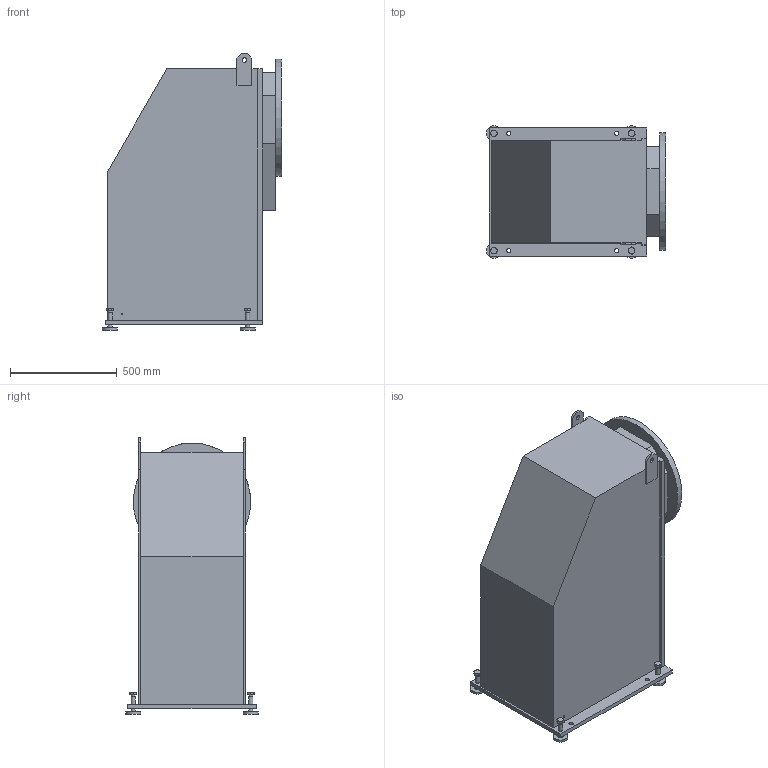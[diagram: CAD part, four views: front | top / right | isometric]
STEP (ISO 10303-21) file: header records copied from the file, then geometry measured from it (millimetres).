
FILE_DESCRIPTION((''),'2;1');
FILE_NAME('S:\Manipulatorer\Produkter\Layout symboler\HSB\114771-100 HSB-1000 SN (STEP).stp','2008-02-04T15:47:37',('Kristian'),(''),'Autodesk Inventor 2008','Autodesk Inventor 2008','');
FILE_SCHEMA(('AUTOMOTIVE_DESIGN { 1 0 10303 214 1 1 1 1 }'));
Length unit declared in the file: millimetre
Products named in the file (2): 114771- HSB-1000 SN (iAssy) (No details); 114771-100 HSB-1000 SN (low-res)
Assembly tree (1 placements, depth 2):
  114771- HSB-1000 SN (iAssy) (No details)
    114771-100 HSB-1000 SN (low-res)
Bounding box: 839 x 620 x 1295 mm (x, y, z)
Volume: 409898587.8 mm3; surface area: 3990742.5 mm2
Topology: 5 solids, 5 shells, 175 faces, 381 edges, 251 vertices
Faces by surface type: plane 110, cylinder 29, bspline 20, cone 16
Full cylindrical faces by diameter (mm): 20 x12, 22 x2, 28.19 x4, 70 x4, 550 x1
Entity records: 4887 total; most frequent: CARTESIAN_POINT 1105, DIRECTION 702, ORIENTED_EDGE 640, EDGE_CURVE 320, EDGE_LOOP 270, AXIS2_PLACEMENT_3D 261, VERTEX_POINT 236, VECTOR 180
